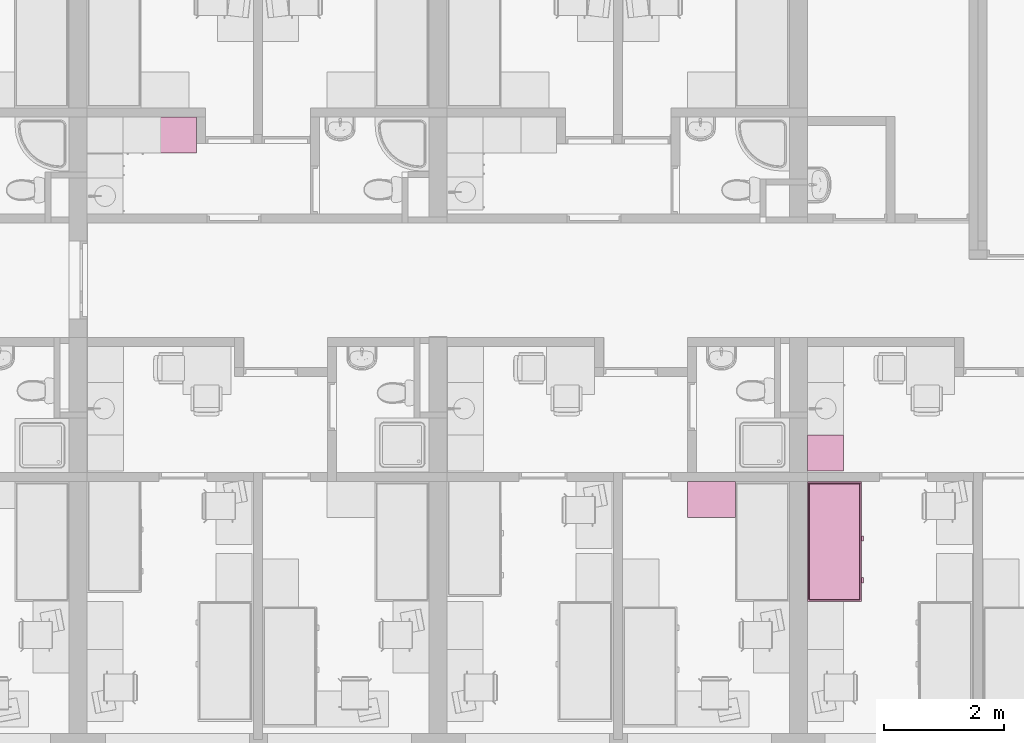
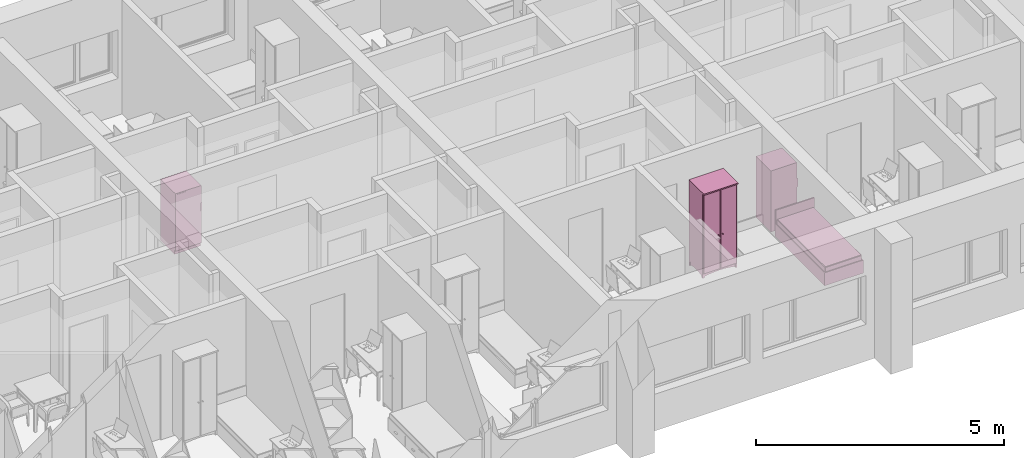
# One storey, part 88 of 165: 4 furnishings.
"""IFC2X3 building model written with IfcOpenShell, lengths in millimetres."""

from ifc_helpers import new_model, entity, si_unit, converted_unit, money_unit, direction, frame, origin_with_axes, place, context, subcontext, project, spatial, open_shell, faceted_brep, surface_model, source, transform, mapped, material, material_list, type_object, element, save


model = new_model("IFC2X3")

# Units and contexts
model_context = context("Model", 3, precision=1e-05, world=origin_with_axes(), true_north=direction((0.0, 1.0)))
body_context = subcontext(model_context, "Body", "Model", "MODEL_VIEW")
ifc_project = project(units=[si_unit("LENGTHUNIT", "METRE", prefix="MILLI"), si_unit("AREAUNIT", "SQUARE_METRE"), si_unit("VOLUMEUNIT", "CUBIC_METRE"), converted_unit("PLANEANGLEUNIT", "DEGREE", entity("IfcPlaneAngleMeasure", 0.0174532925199), si_unit("PLANEANGLEUNIT", "RADIAN"), dimensions=[0, 0, 0, 0, 0, 0, 0]), si_unit("SOLIDANGLEUNIT", "STERADIAN"), money_unit("USD"), converted_unit("TIMEUNIT", "Year", entity("IfcTimeMeasure", 31556926.0), si_unit("TIMEUNIT", "SECOND"), dimensions=[0, 0, 0, 0, 0, 0, 0]), si_unit("MASSUNIT", "GRAM"), si_unit("THERMODYNAMICTEMPERATUREUNIT", "DEGREE_CELSIUS"), si_unit("LUMINOUSINTENSITYUNIT", "LUMEN")], contexts=[model_context])

# Site, building, storey
site_placement = place(None, origin_with_axes())
site = spatial("IfcSite", under=ifc_project, at=site_placement, Name="Site", CompositionType="ELEMENT")
building_placement = place(site_placement, origin_with_axes())
building = spatial("IfcBuilding", under=site, at=building_placement, Name="Building", CompositionType="ELEMENT")
storey_placement = place(building_placement, frame((0.0, 0.0, 6300.0), z_axis=(0.0, 0.0, 1.0), x_axis=(1.0, 0.0, 0.0)))
storey = spatial("IfcBuildingStorey", under=building, at=storey_placement, Name="4KORRUS", CompositionType="ELEMENT", Elevation=6300.0)

# Furnishings
ifc_material = material(Name="Background")
ifc_material_list = material_list([ifc_material])
furnishing_element_type_1 = type_object("IfcFurnishingElementType", Name="Bed 19")
shared_shape_1 = source(origin_with_axes(), body_context, "Body", "Brep", [
    faceted_brep([(900.0, 1970.0, 0.0), (0.0, 1970.0, 0.0), (0.0, 2000.0, 0.0), (900.0, 2000.0, 0.0), (900.0, 1970.0, 660.0), (0.0, 1970.0, 660.0), (0.0, 2000.0, 660.0), (900.0, 2000.0, 660.0)], [[[0, 1, 2, 3]], [[1, 0, 4, 5]], [[2, 1, 5, 6]], [[3, 2, 6, 7]], [[0, 3, 7, 4]], [[5, 4, 7, 6]]]),
    faceted_brep([(900.0, 0.0, 0.0), (0.0, 0.0, 0.0), (0.0, 1970.0, 0.0), (900.0, 1970.0, 0.0), (900.0, 0.0, 320.0), (0.0, 0.0, 320.0), (0.0, 1970.0, 320.0), (900.0, 1970.0, 320.0)], [[[0, 1, 2, 3]], [[1, 0, 4, 5]], [[2, 1, 5, 6]], [[3, 2, 6, 7]], [[0, 3, 7, 4]], [[5, 4, 7, 6]]]),
    faceted_brep([(905.0, 10.0, 30.0), (900.0, 10.0, 30.0), (900.0, 695.0, 30.0), (905.0, 695.0, 30.0), (905.0, 10.0, 290.0), (900.0, 10.0, 290.0), (900.0, 695.0, 290.0), (905.0, 695.0, 290.0)], [[[0, 1, 2, 3]], [[1, 0, 4, 5]], [[2, 1, 5, 6]], [[3, 2, 6, 7]], [[0, 3, 7, 4]], [[5, 4, 7, 6]]]),
    faceted_brep([(935.0, 307.5, 150.0), (905.0, 307.5, 150.0), (905.0, 397.5, 150.0), (935.0, 397.5, 150.0), (935.0, 307.5, 170.0), (905.0, 307.5, 170.0), (905.0, 397.5, 170.0), (935.0, 397.5, 170.0)], [[[0, 1, 2, 3]], [[1, 0, 4, 5]], [[2, 1, 5, 6]], [[3, 2, 6, 7]], [[0, 3, 7, 4]], [[5, 4, 7, 6]]]),
    faceted_brep([(905.0, 705.0, 30.0), (900.0, 705.0, 30.0), (900.0, 1390.0, 30.0), (905.0, 1390.0, 30.0), (905.0, 705.0, 290.0), (900.0, 705.0, 290.0), (900.0, 1390.0, 290.0), (905.0, 1390.0, 290.0)], [[[0, 1, 2, 3]], [[1, 0, 4, 5]], [[2, 1, 5, 6]], [[3, 2, 6, 7]], [[0, 3, 7, 4]], [[5, 4, 7, 6]]]),
    faceted_brep([(935.0, 1002.5, 150.0), (905.0, 1002.5, 150.0), (905.0, 1092.5, 150.0), (935.0, 1092.5, 150.0), (935.0, 1002.5, 170.0), (905.0, 1002.5, 170.0), (905.0, 1092.5, 170.0), (935.0, 1092.5, 170.0)], [[[0, 1, 2, 3]], [[1, 0, 4, 5]], [[2, 1, 5, 6]], [[3, 2, 6, 7]], [[0, 3, 7, 4]], [[5, 4, 7, 6]]]),
    faceted_brep([(20.0, 40.0, 350.0), (20.0, 1950.0, 350.0), (21.522, 1957.654, 350.0), (25.858, 1964.142, 350.0), (32.346, 1968.478, 350.0), (40.0, 1970.0, 350.0), (860.0, 1970.0, 350.0), (867.654, 1968.478, 350.0), (874.142, 1964.142, 350.0), (878.478, 1957.654, 350.0), (880.0, 1950.0, 350.0), (880.0, 40.0, 350.0), (878.478, 32.346, 350.0), (874.142, 25.858, 350.0), (867.654, 21.522, 350.0), (860.0, 20.0, 350.0), (40.0, 20.0, 350.0), (32.346, 21.522, 350.0), (25.858, 25.858, 350.0), (21.522, 32.346, 350.0), (20.0, 40.0, 420.0), (20.0, 1950.0, 420.0), (21.522, 1957.654, 420.0), (25.858, 1964.142, 420.0), (32.346, 1968.478, 420.0), (40.0, 1970.0, 420.0), (860.0, 1970.0, 420.0), (867.654, 1968.478, 420.0), (874.142, 1964.142, 420.0), (878.478, 1957.654, 420.0), (880.0, 1950.0, 420.0), (880.0, 40.0, 420.0), (878.478, 32.346, 420.0), (874.142, 25.858, 420.0), (867.654, 21.522, 420.0), (860.0, 20.0, 420.0), (40.0, 20.0, 420.0), (32.346, 21.522, 420.0), (25.858, 25.858, 420.0), (21.522, 32.346, 420.0), (21.522, 40.15, 427.654), (21.522, 1949.85, 427.654), (22.956, 1957.06, 427.654), (26.955, 1963.045, 427.654), (32.94, 1967.044, 427.654), (40.15, 1968.478, 427.654), (859.85, 1968.478, 427.654), (867.06, 1967.044, 427.654), (873.045, 1963.045, 427.654), (877.044, 1957.06, 427.654), (878.478, 1949.85, 427.654), (878.478, 40.15, 427.654), (877.044, 32.94, 427.654), (873.045, 26.955, 427.654), (867.06, 22.956, 427.654), (859.85, 21.522, 427.654), (40.15, 21.522, 427.654), (32.94, 22.956, 427.654), (26.955, 26.955, 427.654), (22.956, 32.94, 427.654), (32.346, 41.216, 438.478), (32.346, 1948.784, 438.478), (33.152, 1952.836, 438.478), (34.759, 1955.241, 438.478), (37.164, 1956.848, 438.478), (41.216, 1957.654, 438.478), (858.784, 1957.654, 438.478), (862.836, 1956.848, 438.478), (865.241, 1955.241, 438.478), (866.848, 1952.836, 438.478), (867.654, 1948.784, 438.478), (867.654, 41.216, 438.478), (866.848, 37.164, 438.478), (865.241, 34.759, 438.478), (862.836, 33.152, 438.478), (858.784, 32.346, 438.478), (41.216, 32.346, 438.478), (37.164, 33.152, 438.478), (34.759, 34.759, 438.478), (33.152, 37.164, 438.478), (40.0, 41.97, 440.0), (40.0, 1948.03, 440.0), (40.327, 1949.673, 440.0), (40.0, 1950.0, 439.924), (41.97, 1950.0, 440.0), (858.03, 1950.0, 440.0), (859.673, 1949.673, 440.0), (860.0, 1950.0, 439.924), (860.0, 1948.03, 440.0), (860.0, 41.97, 440.0), (859.673, 40.327, 440.0), (860.0, 40.0, 439.924), (858.03, 40.0, 440.0), (41.97, 40.0, 440.0), (40.327, 40.327, 440.0), (40.0, 40.0, 439.924)], [[[0, 1, 2, 3, 4, 5, 6, 7, 8, 9, 10, 11, 12, 13, 14, 15, 16, 17, 18, 19]], [[1, 0, 20, 21]], [[2, 1, 21, 22]], [[3, 2, 22, 23]], [[4, 3, 23, 24]], [[5, 4, 24, 25]], [[6, 5, 25, 26]], [[7, 6, 26, 27]], [[8, 7, 27, 28]], [[9, 8, 28, 29]], [[10, 9, 29, 30]], [[11, 10, 30, 31]], [[12, 11, 31, 32]], [[13, 12, 32, 33]], [[14, 13, 33, 34]], [[15, 14, 34, 35]], [[16, 15, 35, 36]], [[17, 16, 36, 37]], [[18, 17, 37, 38]], [[19, 18, 38, 39]], [[0, 19, 39, 20]], [[21, 20, 40, 41]], [[22, 21, 41, 42]], [[23, 22, 42, 43]], [[24, 23, 43, 44]], [[25, 24, 44, 45]], [[26, 25, 45, 46]], [[27, 26, 46, 47]], [[28, 27, 47, 48]], [[29, 28, 48, 49]], [[30, 29, 49, 50]], [[31, 30, 50, 51]], [[32, 31, 51, 52]], [[33, 32, 52, 53]], [[34, 33, 53, 54]], [[35, 34, 54, 55]], [[36, 35, 55, 56]], [[37, 36, 56, 57]], [[38, 37, 57, 58]], [[39, 38, 58, 59]], [[20, 39, 59, 40]], [[41, 40, 60, 61]], [[42, 41, 61, 62]], [[43, 42, 62, 63]], [[44, 43, 63, 64]], [[45, 44, 64, 65]], [[46, 45, 65, 66]], [[47, 46, 66, 67]], [[48, 47, 67, 68]], [[49, 48, 68, 69]], [[50, 49, 69, 70]], [[51, 50, 70, 71]], [[52, 51, 71, 72]], [[53, 52, 72, 73]], [[54, 53, 73, 74]], [[55, 54, 74, 75]], [[56, 55, 75, 76]], [[57, 56, 76, 77]], [[58, 57, 77, 78]], [[59, 58, 78, 79]], [[40, 59, 79, 60]], [[61, 60, 80, 81]], [[62, 61, 81, 82, 83]], [[63, 62, 83]], [[64, 63, 83]], [[65, 64, 83, 82, 84]], [[66, 65, 84, 85]], [[67, 66, 85, 86, 87]], [[68, 67, 87]], [[69, 68, 87]], [[70, 69, 87, 86, 88]], [[71, 70, 88, 89]], [[72, 71, 89, 90, 91]], [[73, 72, 91]], [[74, 73, 91]], [[75, 74, 91, 90, 92]], [[76, 75, 92, 93]], [[77, 76, 93, 94, 95]], [[78, 77, 95]], [[79, 78, 95]], [[60, 79, 95, 94, 80]], [[81, 80, 94, 93, 92, 90, 89, 88, 86, 85, 84, 82]]]),
    faceted_brep([(20.0, 40.0, 350.0), (21.522, 32.346, 350.0), (25.858, 25.858, 350.0), (32.346, 21.522, 350.0), (40.0, 20.0, 350.0), (860.0, 20.0, 350.0), (867.654, 21.522, 350.0), (874.142, 25.858, 350.0), (878.478, 32.346, 350.0), (880.0, 40.0, 350.0), (880.0, 1950.0, 350.0), (878.478, 1957.654, 350.0), (874.142, 1964.142, 350.0), (867.654, 1968.478, 350.0), (860.0, 1970.0, 350.0), (40.0, 1970.0, 350.0), (32.346, 1968.478, 350.0), (25.858, 1964.142, 350.0), (21.522, 1957.654, 350.0), (20.0, 1950.0, 350.0), (20.0, 40.0, 320.0), (21.522, 32.346, 320.0), (25.858, 25.858, 320.0), (32.346, 21.522, 320.0), (40.0, 20.0, 320.0), (860.0, 20.0, 320.0), (867.654, 21.522, 320.0), (874.142, 25.858, 320.0), (878.478, 32.346, 320.0), (880.0, 40.0, 320.0), (880.0, 1950.0, 320.0), (878.478, 1957.654, 320.0), (874.142, 1964.142, 320.0), (867.654, 1968.478, 320.0), (860.0, 1970.0, 320.0), (40.0, 1970.0, 320.0), (32.346, 1968.478, 320.0), (25.858, 1964.142, 320.0), (21.522, 1957.654, 320.0), (20.0, 1950.0, 320.0)], [[[0, 1, 2, 3, 4, 5, 6, 7, 8, 9, 10, 11, 12, 13, 14, 15, 16, 17, 18, 19]], [[0, 20, 21, 1]], [[1, 21, 22, 2]], [[2, 22, 23, 3]], [[3, 23, 24, 4]], [[4, 24, 25, 5]], [[5, 25, 26, 6]], [[6, 26, 27, 7]], [[7, 27, 28, 8]], [[8, 28, 29, 9]], [[9, 29, 30, 10]], [[10, 30, 31, 11]], [[11, 31, 32, 12]], [[12, 32, 33, 13]], [[13, 33, 34, 14]], [[14, 34, 35, 15]], [[15, 35, 36, 16]], [[16, 36, 37, 17]], [[17, 37, 38, 18]], [[18, 38, 39, 19]], [[19, 39, 20, 0]], [[20, 39, 38, 37, 36, 35, 34, 33, 32, 31, 30, 29, 28, 27, 26, 25, 24, 23, 22, 21]]]),
])
furnishing_1_placement = place(storey_placement, frame((-23990.2967033, -17439.2398994, 0.0), z_axis=(0.0, 0.0, 1.0), x_axis=(1.0, 0.0, 0.0)))
element("IfcFurnishingElement", 1, at=furnishing_1_placement, inside=storey, type_object=furnishing_element_type_1, material=ifc_material_list, Name="FU - 013", context=body_context, shape_type="MappedRepresentation", body=[
    mapped(shared_shape_1, transform((0.0, 0.0, 0.0))),
])
furnishing_element_type_2 = type_object("IfcFurnishingElementType", Name="Cupboard 19")
shared_shape_2 = source(origin_with_axes(), body_context, "Body", "Brep", [
    faceted_brep([(780.0, 600.0, 120.0), (780.0, 600.0, 2050.0), (780.0, 580.0, 2050.0), (780.0, 580.0, 120.0), (20.0, 600.0, 120.0), (20.0, 600.0, 2050.0), (20.0, 580.0, 2050.0), (20.0, 580.0, 120.0)], [[[0, 1, 2, 3]], [[4, 5, 1, 0]], [[1, 5, 6, 2]], [[3, 2, 6, 7]], [[0, 3, 7, 4]], [[7, 6, 5, 4]]]),
    faceted_brep([(0.0, 50.0, 100.0), (0.0, 600.0, 100.0), (20.0, 600.0, 100.0), (20.0, 50.0, 100.0), (0.0, 50.0, 2070.0), (0.0, 600.0, 2070.0), (20.0, 600.0, 2070.0), (20.0, 50.0, 2070.0)], [[[0, 1, 2, 3]], [[0, 4, 5, 1]], [[1, 5, 6, 2]], [[2, 6, 7, 3]], [[3, 7, 4, 0]], [[7, 6, 5, 4]]]),
    faceted_brep([(780.0, 50.0, 100.0), (780.0, 600.0, 100.0), (800.0, 600.0, 100.0), (800.0, 50.0, 100.0), (780.0, 50.0, 2070.0), (780.0, 600.0, 2070.0), (800.0, 600.0, 2070.0), (800.0, 50.0, 2070.0)], [[[0, 1, 2, 3]], [[0, 4, 5, 1]], [[1, 5, 6, 2]], [[2, 6, 7, 3]], [[3, 7, 4, 0]], [[7, 6, 5, 4]]]),
    faceted_brep([(20.0, 50.0, 100.0), (20.0, 600.0, 100.0), (780.0, 600.0, 100.0), (780.0, 50.0, 100.0), (20.0, 50.0, 120.0), (20.0, 600.0, 120.0), (780.0, 600.0, 120.0), (780.0, 50.0, 120.0)], [[[0, 1, 2, 3]], [[0, 4, 5, 1]], [[1, 5, 6, 2]], [[2, 6, 7, 3]], [[3, 7, 4, 0]], [[7, 6, 5, 4]]]),
    faceted_brep([(20.0, 50.0, 2050.0), (20.0, 600.0, 2050.0), (780.0, 600.0, 2050.0), (780.0, 50.0, 2050.0), (20.0, 50.0, 2070.0), (20.0, 600.0, 2070.0), (780.0, 600.0, 2070.0), (780.0, 50.0, 2070.0)], [[[0, 1, 2, 3]], [[0, 4, 5, 1]], [[1, 5, 6, 2]], [[2, 6, 7, 3]], [[3, 7, 4, 0]], [[7, 6, 5, 4]]]),
    faceted_brep([(0.0, 600.0, 2070.0), (0.0, 0.0, 2070.0), (0.0, 0.0, 2100.0), (0.0, 600.0, 2100.0), (800.0, 600.0, 2070.0), (800.0, 0.0, 2070.0), (800.0, 0.0, 2100.0), (800.0, 600.0, 2100.0)], [[[0, 1, 2, 3]], [[0, 4, 5, 1]], [[1, 5, 6, 2]], [[3, 2, 6, 7]], [[4, 0, 3, 7]], [[5, 4, 7, 6]]]),
    faceted_brep([(760.0, 590.0, 25.0), (760.0, 570.0, 25.0), (640.962, 570.0, 45.8), (640.962, 590.0, 45.8), (760.0, 590.0, 100.0), (760.0, 570.0, 100.0), (40.0, 570.0, 100.0), (40.0, 570.0, 25.0), (159.038, 570.0, 45.8), (279.23, 570.0, 58.32), (400.0, 570.0, 62.5), (520.77, 570.0, 58.32), (520.77, 590.0, 58.32), (400.0, 590.0, 62.5), (279.23, 590.0, 58.32), (159.038, 590.0, 45.8), (40.0, 590.0, 25.0), (40.0, 590.0, 100.0)], [[[0, 1, 2, 3]], [[4, 5, 1, 0]], [[1, 5, 6, 7, 8, 9, 10, 11, 2]], [[3, 2, 11, 12]], [[0, 3, 12, 13, 14, 15, 16, 17, 4]], [[17, 6, 5, 4]], [[16, 7, 6, 17]], [[15, 8, 7, 16]], [[14, 9, 8, 15]], [[13, 10, 9, 14]], [[12, 11, 10, 13]]]),
    faceted_brep([(760.0, 80.0, 25.0), (760.0, 60.0, 25.0), (640.962, 60.0, 45.8), (640.962, 80.0, 45.8), (760.0, 80.0, 100.0), (760.0, 60.0, 100.0), (40.0, 60.0, 100.0), (40.0, 60.0, 25.0), (159.038, 60.0, 45.8), (279.23, 60.0, 58.32), (400.0, 60.0, 62.5), (520.77, 60.0, 58.32), (520.77, 80.0, 58.32), (400.0, 80.0, 62.5), (279.23, 80.0, 58.32), (159.038, 80.0, 45.8), (40.0, 80.0, 25.0), (40.0, 80.0, 100.0)], [[[0, 1, 2, 3]], [[4, 5, 1, 0]], [[1, 5, 6, 7, 8, 9, 10, 11, 2]], [[3, 2, 11, 12]], [[0, 3, 12, 13, 14, 15, 16, 17, 4]], [[17, 6, 5, 4]], [[16, 7, 6, 17]], [[15, 8, 7, 16]], [[14, 9, 8, 15]], [[13, 10, 9, 14]], [[12, 11, 10, 13]]]),
    faceted_brep([(790.0, 90.0, 25.0), (770.0, 90.0, 25.0), (770.0, 141.266, 38.072), (790.0, 141.266, 38.072), (790.0, 90.0, 100.0), (770.0, 90.0, 100.0), (770.0, 560.0, 100.0), (770.0, 560.0, 25.0), (770.0, 508.734, 38.072), (770.0, 456.752, 47.92), (770.0, 404.257, 54.508), (770.0, 351.453, 57.808), (770.0, 298.547, 57.808), (770.0, 245.743, 54.508), (770.0, 193.248, 47.92), (790.0, 193.248, 47.92), (790.0, 245.743, 54.508), (790.0, 298.547, 57.808), (790.0, 351.453, 57.808), (790.0, 404.257, 54.508), (790.0, 456.752, 47.92), (790.0, 508.734, 38.072), (790.0, 560.0, 25.0), (790.0, 560.0, 100.0)], [[[0, 1, 2, 3]], [[4, 5, 1, 0]], [[1, 5, 6, 7, 8, 9, 10, 11, 12, 13, 14, 2]], [[3, 2, 14, 15]], [[0, 3, 15, 16, 17, 18, 19, 20, 21, 22, 23, 4]], [[23, 6, 5, 4]], [[22, 7, 6, 23]], [[21, 8, 7, 22]], [[20, 9, 8, 21]], [[19, 10, 9, 20]], [[18, 11, 10, 19]], [[17, 12, 11, 18]], [[16, 13, 12, 17]], [[15, 14, 13, 16]]]),
    faceted_brep([(30.0, 90.0, 25.0), (10.0, 90.0, 25.0), (10.0, 141.266, 38.072), (30.0, 141.266, 38.072), (30.0, 90.0, 100.0), (10.0, 90.0, 100.0), (10.0, 560.0, 100.0), (10.0, 560.0, 25.0), (10.0, 508.734, 38.072), (10.0, 456.752, 47.92), (10.0, 404.257, 54.508), (10.0, 351.453, 57.808), (10.0, 298.547, 57.808), (10.0, 245.743, 54.508), (10.0, 193.248, 47.92), (30.0, 193.248, 47.92), (30.0, 245.743, 54.508), (30.0, 298.547, 57.808), (30.0, 351.453, 57.808), (30.0, 404.257, 54.508), (30.0, 456.752, 47.92), (30.0, 508.734, 38.072), (30.0, 560.0, 25.0), (30.0, 560.0, 100.0)], [[[0, 1, 2, 3]], [[4, 5, 1, 0]], [[1, 5, 6, 7, 8, 9, 10, 11, 12, 13, 14, 2]], [[3, 2, 14, 15]], [[0, 3, 15, 16, 17, 18, 19, 20, 21, 22, 23, 4]], [[23, 6, 5, 4]], [[22, 7, 6, 23]], [[21, 8, 7, 22]], [[20, 9, 8, 21]], [[19, 10, 9, 20]], [[18, 11, 10, 19]], [[17, 12, 11, 18]], [[16, 13, 12, 17]], [[15, 14, 13, 16]]]),
    faceted_brep([(760.0, 560.0, 0.0), (760.0, 560.0, 100.0), (760.0, 600.0, 100.0), (760.0, 600.0, 0.0), (800.0, 560.0, 0.0), (800.0, 560.0, 100.0), (800.0, 600.0, 100.0), (800.0, 600.0, 0.0)], [[[0, 1, 2, 3]], [[4, 5, 1, 0]], [[1, 5, 6, 2]], [[3, 2, 6, 7]], [[0, 3, 7, 4]], [[7, 6, 5, 4]]]),
    faceted_brep([(0.0, 560.0, 0.0), (0.0, 560.0, 100.0), (0.0, 600.0, 100.0), (0.0, 600.0, 0.0), (40.0, 560.0, 0.0), (40.0, 560.0, 100.0), (40.0, 600.0, 100.0), (40.0, 600.0, 0.0)], [[[0, 1, 2, 3]], [[4, 5, 1, 0]], [[1, 5, 6, 2]], [[3, 2, 6, 7]], [[0, 3, 7, 4]], [[7, 6, 5, 4]]]),
    faceted_brep([(760.0, 50.0, 0.0), (760.0, 50.0, 100.0), (760.0, 90.0, 100.0), (760.0, 90.0, 0.0), (800.0, 50.0, 0.0), (800.0, 50.0, 100.0), (800.0, 90.0, 100.0), (800.0, 90.0, 0.0)], [[[0, 1, 2, 3]], [[4, 5, 1, 0]], [[1, 5, 6, 2]], [[3, 2, 6, 7]], [[0, 3, 7, 4]], [[7, 6, 5, 4]]]),
    faceted_brep([(0.0, 50.0, 0.0), (0.0, 50.0, 100.0), (0.0, 90.0, 100.0), (0.0, 90.0, 0.0), (40.0, 50.0, 0.0), (40.0, 50.0, 100.0), (40.0, 90.0, 100.0), (40.0, 90.0, 0.0)], [[[0, 1, 2, 3]], [[4, 5, 1, 0]], [[1, 5, 6, 2]], [[3, 2, 6, 7]], [[0, 3, 7, 4]], [[7, 6, 5, 4]]]),
    faceted_brep([(780.0, 580.0, 587.5), (780.0, 580.0, 607.5), (780.0, 50.0, 607.5), (780.0, 50.0, 587.5), (20.0, 580.0, 587.5), (20.0, 580.0, 607.5), (20.0, 50.0, 607.5), (20.0, 50.0, 587.5)], [[[0, 1, 2, 3]], [[4, 5, 1, 0]], [[1, 5, 6, 2]], [[3, 2, 6, 7]], [[0, 3, 7, 4]], [[7, 6, 5, 4]]]),
    faceted_brep([(780.0, 580.0, 1075.0), (780.0, 580.0, 1095.0), (780.0, 50.0, 1095.0), (780.0, 50.0, 1075.0), (20.0, 580.0, 1075.0), (20.0, 580.0, 1095.0), (20.0, 50.0, 1095.0), (20.0, 50.0, 1075.0)], [[[0, 1, 2, 3]], [[4, 5, 1, 0]], [[1, 5, 6, 2]], [[3, 2, 6, 7]], [[0, 3, 7, 4]], [[7, 6, 5, 4]]]),
    faceted_brep([(780.0, 580.0, 1562.5), (780.0, 580.0, 1582.5), (780.0, 50.0, 1582.5), (780.0, 50.0, 1562.5), (20.0, 580.0, 1562.5), (20.0, 580.0, 1582.5), (20.0, 50.0, 1582.5), (20.0, 50.0, 1562.5)], [[[0, 1, 2, 3]], [[4, 5, 1, 0]], [[1, 5, 6, 2]], [[3, 2, 6, 7]], [[0, 3, 7, 4]], [[7, 6, 5, 4]]]),
    faceted_brep([(789.5, 50.0, 110.5), (400.5, 50.0, 110.5), (400.5, 50.0, 2059.5), (789.5, 50.0, 2059.5), (789.5, 40.0, 110.5), (400.5, 40.0, 110.5), (400.5, 40.0, 2059.5), (789.5, 40.0, 2059.5), (779.5, 30.0, 120.5), (410.5, 30.0, 120.5), (410.5, 30.0, 2049.5), (779.5, 30.0, 2049.5)], [[[0, 1, 2, 3]], [[0, 4, 5, 1]], [[1, 5, 6, 2]], [[2, 6, 7, 3]], [[3, 7, 4, 0]], [[4, 8, 9, 5]], [[5, 9, 10, 6]], [[6, 10, 11, 7]], [[7, 11, 8, 4]], [[10, 9, 8, 11]]]),
    faceted_brep([(399.5, 50.0, 110.5), (10.5, 50.0, 110.5), (10.5, 50.0, 2059.5), (399.5, 50.0, 2059.5), (399.5, 40.0, 110.5), (10.5, 40.0, 110.5), (10.5, 40.0, 2059.5), (399.5, 40.0, 2059.5), (389.5, 30.0, 120.5), (20.5, 30.0, 120.5), (20.5, 30.0, 2049.5), (389.5, 30.0, 2049.5)], [[[0, 1, 2, 3]], [[0, 4, 5, 1]], [[1, 5, 6, 2]], [[2, 6, 7, 3]], [[3, 7, 4, 0]], [[4, 8, 9, 5]], [[5, 9, 10, 6]], [[6, 10, 11, 7]], [[7, 11, 8, 4]], [[10, 9, 8, 11]]]),
    faceted_brep([(339.608, 30.0, 954.0), (338.0, 30.0, 960.0), (339.608, 30.0, 966.0), (344.0, 30.0, 970.392), (350.0, 30.0, 972.0), (356.0, 30.0, 970.392), (360.392, 30.0, 966.0), (362.0, 30.0, 960.0), (360.392, 30.0, 954.0), (356.0, 30.0, 949.608), (350.0, 30.0, 948.0), (344.0, 30.0, 949.608), (339.608, 5.0, 954.0), (338.0, 5.0, 960.0), (339.608, 5.0, 966.0), (344.0, 5.0, 970.392), (350.0, 5.0, 972.0), (356.0, 5.0, 970.392), (360.392, 5.0, 966.0), (362.0, 5.0, 960.0), (360.392, 5.0, 954.0), (356.0, 5.0, 949.608), (350.0, 5.0, 948.0), (344.0, 5.0, 949.608)], [[[0, 1, 2, 3, 4, 5, 6, 7, 8, 9, 10, 11]], [[0, 12, 13, 1]], [[1, 13, 14, 2]], [[2, 14, 15, 3]], [[3, 15, 16, 4]], [[4, 16, 17, 5]], [[5, 17, 18, 6]], [[6, 18, 19, 7]], [[7, 19, 20, 8]], [[8, 20, 21, 9]], [[9, 21, 22, 10]], [[10, 22, 23, 11]], [[11, 23, 12, 0]], [[12, 23, 22, 21, 20, 19, 18, 17, 16, 15, 14, 13]]]),
    faceted_brep([(460.392, 30.0, 954.0), (456.0, 30.0, 949.608), (450.0, 30.0, 948.0), (444.0, 30.0, 949.608), (439.608, 30.0, 954.0), (438.0, 30.0, 960.0), (439.608, 30.0, 966.0), (444.0, 30.0, 970.392), (450.0, 30.0, 972.0), (456.0, 30.0, 970.392), (460.392, 30.0, 966.0), (462.0, 30.0, 960.0), (460.392, 5.0, 954.0), (456.0, 5.0, 949.608), (450.0, 5.0, 948.0), (444.0, 5.0, 949.608), (439.608, 5.0, 954.0), (438.0, 5.0, 960.0), (439.608, 5.0, 966.0), (444.0, 5.0, 970.392), (450.0, 5.0, 972.0), (456.0, 5.0, 970.392), (460.392, 5.0, 966.0), (462.0, 5.0, 960.0)], [[[0, 1, 2, 3, 4, 5, 6, 7, 8, 9, 10, 11]], [[1, 0, 12, 13]], [[2, 1, 13, 14]], [[3, 2, 14, 15]], [[4, 3, 15, 16]], [[5, 4, 16, 17]], [[6, 5, 17, 18]], [[7, 6, 18, 19]], [[8, 7, 19, 20]], [[9, 8, 20, 21]], [[10, 9, 21, 22]], [[11, 10, 22, 23]], [[0, 11, 23, 12]], [[12, 23, 22, 21, 20, 19, 18, 17, 16, 15, 14, 13]]]),
])
furnishing_2_placement = place(storey_placement, frame((-25990.2967033, -16039.2398994, 0.0), z_axis=(0.0, 0.0, 1.0), x_axis=(1.0, 0.0, 0.0)))
element("IfcFurnishingElement", 2, at=furnishing_2_placement, inside=storey, type_object=furnishing_element_type_2, material=ifc_material_list, Name="FU - 014", context=body_context, shape_type="MappedRepresentation", body=[
    mapped(shared_shape_2, transform((0.0, 0.0, 0.0))),
])
furnishing_element_type_3 = type_object("IfcFurnishingElementType", Name="Refrigerator 19")
shared_shape_3 = source(origin_with_axes(), body_context, "Body", "SurfaceModel", [
    faceted_brep([(0.0, 0.0, 1475.0), (600.0, 0.0, 1475.0), (600.0, 0.0, 1500.0), (0.0, 0.0, 1500.0), (0.0, 600.0, 1475.0), (600.0, 600.0, 1475.0), (600.0, 600.0, 1500.0), (0.0, 600.0, 1500.0)], [[[0, 1, 2, 3]], [[0, 4, 5, 1]], [[1, 5, 6, 2]], [[3, 2, 6, 7]], [[4, 0, 3, 7]], [[5, 4, 7, 6]]]),
    faceted_brep([(0.0, 65.0, 0.0), (600.0, 65.0, 0.0), (600.0, 65.0, 1475.0), (0.0, 65.0, 1475.0), (0.0, 600.0, 0.0), (600.0, 600.0, 0.0), (600.0, 600.0, 1475.0), (0.0, 600.0, 1475.0)], [[[0, 1, 2, 3]], [[0, 4, 5, 1]], [[1, 5, 6, 2]], [[3, 2, 6, 7]], [[4, 0, 3, 7]], [[5, 4, 7, 6]]]),
    faceted_brep([(0.0, 30.0, 0.0), (600.0, 30.0, 0.0), (600.0, 30.0, 90.0), (0.0, 30.0, 90.0), (0.0, 60.0, 0.0), (600.0, 60.0, 0.0), (600.0, 60.0, 90.0), (0.0, 60.0, 90.0)], [[[0, 1, 2, 3]], [[0, 4, 5, 1]], [[1, 5, 6, 2]], [[3, 2, 6, 7]], [[4, 0, 3, 7]], [[5, 4, 7, 6]]]),
    faceted_brep([(0.0, 60.0, 90.0), (600.0, 60.0, 90.0), (600.0, 0.0, 90.0), (0.0, 0.0, 90.0), (0.0, 60.0, 1474.5), (600.0, 60.0, 1474.5), (600.0, 0.0, 1474.5), (0.0, 0.0, 1474.5)], [[[0, 1, 2, 3]], [[0, 4, 5, 1]], [[1, 5, 6, 2]], [[3, 2, 6, 7]], [[4, 0, 3, 7]], [[5, 4, 7, 6]]]),
    surface_model("IfcShellBasedSurfaceModel", [(600.0, -30.0, 900.0), (600.0, -30.0, 1100.0), (600.0, 0.0, 1100.0), (600.0, 0.0, 900.0)], [open_shell([[[0, 1, 2, 3]]])]),
    surface_model("IfcShellBasedSurfaceModel", [(600.0, -30.0, 900.0), (600.0, -30.0, 1100.0), (570.0, -30.0, 1100.0), (570.0, -30.0, 900.0)], [open_shell([[[0, 1, 2, 3]]])]),
])
furnishing_3_placement = place(storey_placement, frame((-34765.7435229, -9967.37850445, 0.0), z_axis=(0.0, 0.0, 1.0), x_axis=(1.0, 0.0, 0.0)))
element("IfcFurnishingElement", 3, at=furnishing_3_placement, inside=storey, type_object=furnishing_element_type_3, material=ifc_material_list, Name="FU - 007", context=body_context, shape_type="MappedRepresentation", body=[
    mapped(shared_shape_3, transform((0.0, 0.0, 0.0))),
])
shared_shape_4 = source(origin_with_axes(), body_context, "Body", "SurfaceModel", [
    faceted_brep([(0.0, 0.0, 1475.0), (0.0, 0.0, 1500.0), (-600.0, 0.0, 1500.0), (-600.0, 0.0, 1475.0), (0.0, 600.0, 1475.0), (0.0, 600.0, 1500.0), (-600.0, 600.0, 1500.0), (-600.0, 600.0, 1475.0)], [[[0, 1, 2, 3]], [[4, 5, 1, 0]], [[1, 5, 6, 2]], [[3, 2, 6, 7]], [[0, 3, 7, 4]], [[7, 6, 5, 4]]]),
    faceted_brep([(0.0, 65.0, 0.0), (0.0, 65.0, 1475.0), (-600.0, 65.0, 1475.0), (-600.0, 65.0, 0.0), (0.0, 600.0, 0.0), (0.0, 600.0, 1475.0), (-600.0, 600.0, 1475.0), (-600.0, 600.0, 0.0)], [[[0, 1, 2, 3]], [[4, 5, 1, 0]], [[1, 5, 6, 2]], [[3, 2, 6, 7]], [[0, 3, 7, 4]], [[7, 6, 5, 4]]]),
    faceted_brep([(0.0, 30.0, 0.0), (0.0, 30.0, 90.0), (-600.0, 30.0, 90.0), (-600.0, 30.0, 0.0), (0.0, 60.0, 0.0), (0.0, 60.0, 90.0), (-600.0, 60.0, 90.0), (-600.0, 60.0, 0.0)], [[[0, 1, 2, 3]], [[4, 5, 1, 0]], [[1, 5, 6, 2]], [[3, 2, 6, 7]], [[0, 3, 7, 4]], [[7, 6, 5, 4]]]),
    faceted_brep([(0.0, 60.0, 90.0), (0.0, 0.0, 90.0), (-600.0, 0.0, 90.0), (-600.0, 60.0, 90.0), (0.0, 60.0, 1474.5), (0.0, 0.0, 1474.5), (-600.0, 0.0, 1474.5), (-600.0, 60.0, 1474.5)], [[[0, 1, 2, 3]], [[4, 5, 1, 0]], [[1, 5, 6, 2]], [[3, 2, 6, 7]], [[0, 3, 7, 4]], [[7, 6, 5, 4]]]),
    surface_model("IfcShellBasedSurfaceModel", [(-600.0, -30.0, 900.0), (-600.0, 0.0, 900.0), (-600.0, 0.0, 1100.0), (-600.0, -30.0, 1100.0)], [open_shell([[[0, 1, 2, 3]]])]),
    surface_model("IfcShellBasedSurfaceModel", [(-600.0, -30.0, 900.0), (-570.0, -30.0, 900.0), (-570.0, -30.0, 1100.0), (-600.0, -30.0, 1100.0)], [open_shell([[[0, 1, 2, 3]]])]),
])
furnishing_4_placement = place(storey_placement, frame((-23384.008308, -14664.7705299, 0.0), z_axis=(0.0, 0.0, 1.0), x_axis=(0.0, 1.0, 0.0)))
element("IfcFurnishingElement", 4, at=furnishing_4_placement, inside=storey, type_object=furnishing_element_type_3, material=ifc_material_list, Name="FU - 007", context=body_context, shape_type="MappedRepresentation", body=[
    mapped(shared_shape_4, transform((0.0, 0.0, 0.0))),
])

save(model, "model.ifc")
